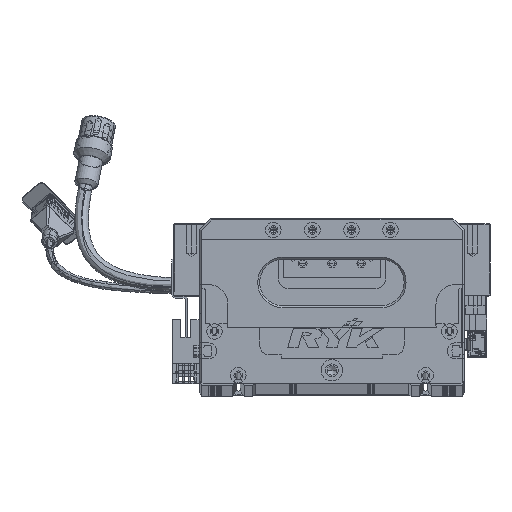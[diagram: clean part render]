
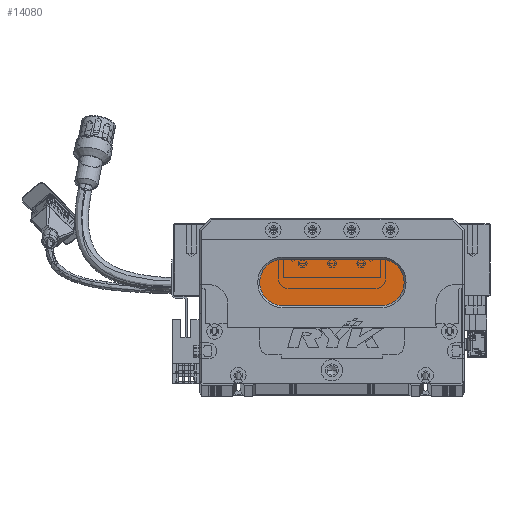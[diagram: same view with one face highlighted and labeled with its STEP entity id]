
A CAD part, top view. The second image highlights one B-rep face of the part: STEP entity #14080.
In plain terms, the highlighted planar face has unit normal (0, 0, 1) as drawn and (0, 0, -1) by its records, which use the part's own axes.
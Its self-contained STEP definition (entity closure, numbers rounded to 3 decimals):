
#1123 = PLANE ( 'NONE',  #106029 ) ;
#6470 = EDGE_CURVE ( 'NONE', #59726, #120444, #8985, .T. ) ;
#8985 = CIRCLE ( 'NONE', #53837, 12. ) ;
#10408 = DIRECTION ( 'NONE',  ( 0., 0., -1. ) ) ;
#14080 = ADVANCED_FACE ( 'NONE', ( #70532 ), #1123, .T. ) ;
#15012 = DIRECTION ( 'NONE',  ( -1., 0., 0. ) ) ;
#19293 = EDGE_LOOP ( 'NONE', ( #122163, #144809, #43196, #30116, #59218 ) ) ;
#22522 = VERTEX_POINT ( 'NONE', #70231 ) ;
#24974 = DIRECTION ( 'NONE',  ( -1., 0., 0. ) ) ;
#28465 = LINE ( 'NONE', #65141, #93811 ) ;
#30116 = ORIENTED_EDGE ( 'NONE', *, *, #6470, .T. ) ;
#32765 = DIRECTION ( 'NONE',  ( -1., 0., 0. ) ) ;
#33027 = CIRCLE ( 'NONE', #95515, 12. ) ;
#36145 = CARTESIAN_POINT ( 'NONE',  ( 93., 52., 13. ) ) ;
#38402 = AXIS2_PLACEMENT_3D ( 'NONE', #79886, #10408, #32765 ) ;
#39642 = CARTESIAN_POINT ( 'NONE',  ( 43., 40., 13. ) ) ;
#43196 = ORIENTED_EDGE ( 'NONE', *, *, #86548, .T. ) ;
#53837 = AXIS2_PLACEMENT_3D ( 'NONE', #66567, #147757, #148751 ) ;
#59218 = ORIENTED_EDGE ( 'NONE', *, *, #75884, .T. ) ;
#59451 = VECTOR ( 'NONE', #127486, 1000. ) ;
#59726 = VERTEX_POINT ( 'NONE', #83938 ) ;
#61182 = DIRECTION ( 'NONE',  ( 0., 0., -1. ) ) ;
#64832 = EDGE_CURVE ( 'NONE', #22522, #68524, #28465, .T. ) ;
#65141 = CARTESIAN_POINT ( 'NONE',  ( 93., 40., 13. ) ) ;
#66567 = CARTESIAN_POINT ( 'NONE',  ( 43., 52., 13. ) ) ;
#68524 = VERTEX_POINT ( 'NONE', #39642 ) ;
#70231 = CARTESIAN_POINT ( 'NONE',  ( 93., 40., 13. ) ) ;
#70532 = FACE_OUTER_BOUND ( 'NONE', #19293, .T. ) ;
#75884 = EDGE_CURVE ( 'NONE', #120444, #81432, #93918, .T. ) ;
#79886 = CARTESIAN_POINT ( 'NONE',  ( 93., 52., 13. ) ) ;
#81432 = VERTEX_POINT ( 'NONE', #139075 ) ;
#83938 = CARTESIAN_POINT ( 'NONE',  ( 31., 52., 13. ) ) ;
#86548 = EDGE_CURVE ( 'NONE', #68524, #59726, #33027, .T. ) ;
#93811 = VECTOR ( 'NONE', #124914, 1000. ) ;
#93918 = LINE ( 'NONE', #115809, #59451 ) ;
#95515 = AXIS2_PLACEMENT_3D ( 'NONE', #132156, #61182, #15012 ) ;
#106029 = AXIS2_PLACEMENT_3D ( 'NONE', #36145, #127375, #24974 ) ;
#106142 = EDGE_CURVE ( 'NONE', #81432, #22522, #116374, .T. ) ;
#115809 = CARTESIAN_POINT ( 'NONE',  ( 93., 64., 13. ) ) ;
#116374 = CIRCLE ( 'NONE', #38402, 12. ) ;
#120444 = VERTEX_POINT ( 'NONE', #126753 ) ;
#122163 = ORIENTED_EDGE ( 'NONE', *, *, #106142, .T. ) ;
#124914 = DIRECTION ( 'NONE',  ( -1., 0., 0. ) ) ;
#126753 = CARTESIAN_POINT ( 'NONE',  ( 43., 64., 13. ) ) ;
#127375 = DIRECTION ( 'NONE',  ( 0., 0., -1. ) ) ;
#127486 = DIRECTION ( 'NONE',  ( 1., 0., 0. ) ) ;
#132156 = CARTESIAN_POINT ( 'NONE',  ( 43., 52., 13. ) ) ;
#139075 = CARTESIAN_POINT ( 'NONE',  ( 93., 64., 13. ) ) ;
#144809 = ORIENTED_EDGE ( 'NONE', *, *, #64832, .T. ) ;
#147757 = DIRECTION ( 'NONE',  ( 0., 0., -1. ) ) ;
#148751 = DIRECTION ( 'NONE',  ( -1., 0., 0. ) ) ;
